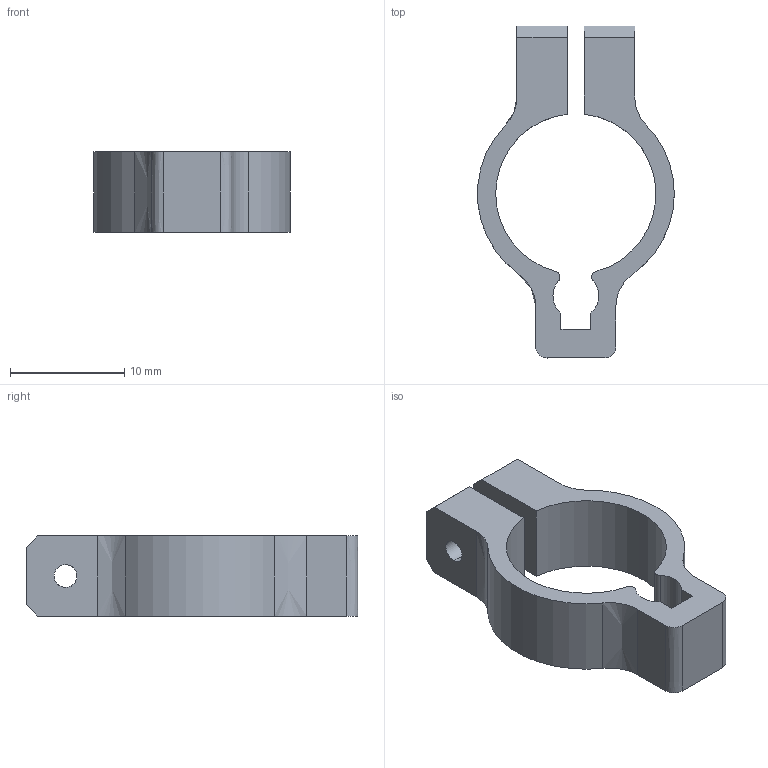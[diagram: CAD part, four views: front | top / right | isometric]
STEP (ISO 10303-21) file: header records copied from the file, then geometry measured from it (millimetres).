
FILE_DESCRIPTION (( 'STEP AP214' ), '1' );
FILE_NAME ('GS-14.STEP', '2019-11-13T03:41:01', ( '微软用户' ), ( '微软中国' ), 'SwSTEP 2.0', 'SolidWorks 2016', '' );
FILE_SCHEMA (( 'AUTOMOTIVE_DESIGN' ));
Length unit declared in the file: millimetre
Products named in the file (1): GS-14
Bounding box: 17.17 x 29 x 7 mm (x, y, z)
Volume: 1047.7 mm3; surface area: 1403.8 mm2
Topology: 1 solids, 1 shells, 43 faces, 120 edges, 80 vertices
Faces by surface type: cylinder 20, plane 17, bspline 6
Entity records: 1614 total; most frequent: CARTESIAN_POINT 492, ORIENTED_EDGE 240, DIRECTION 212, EDGE_CURVE 120, VERTEX_POINT 80, AXIS2_PLACEMENT_3D 74, VECTOR 64, LINE 64
